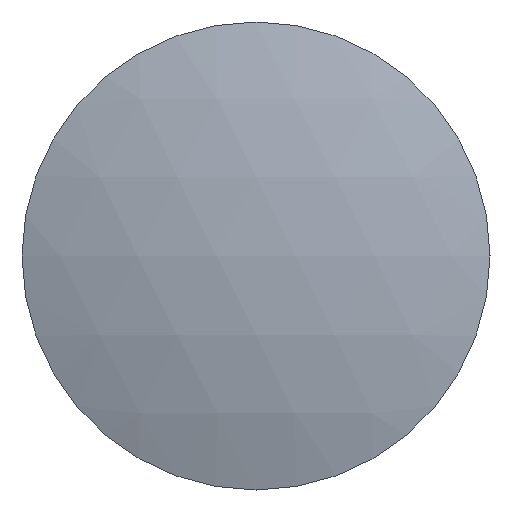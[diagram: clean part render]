
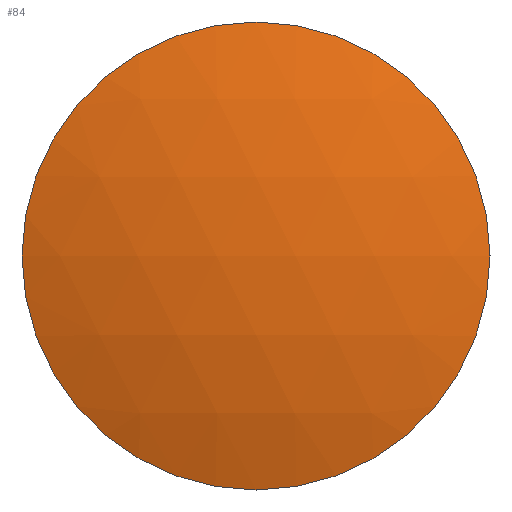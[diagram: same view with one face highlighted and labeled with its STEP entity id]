
A CAD part, front view. The second image highlights one B-rep face of the part: STEP entity #84.
In plain terms, the highlighted spherical face has radius 12.98 mm.
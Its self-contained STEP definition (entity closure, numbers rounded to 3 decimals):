
#68=CARTESIAN_POINT('',(0.0,10.88,0.0));
#69=DIRECTION('',(0.0,0.0,1.0));
#70=DIRECTION('',(1.0,0.0,0.0));
#71=AXIS2_PLACEMENT_3D('',#68,#69,#70);
#72=SPHERICAL_SURFACE('',#71,12.98);
#73=CARTESIAN_POINT('',(-4.,-1.468,0.0));
#74=VERTEX_POINT('',#73);
#75=CARTESIAN_POINT('',(0.0,-1.468,0.0));
#76=DIRECTION('',(0.0,1.0,0.0));
#77=DIRECTION('',(-1.0,0.0,0.0));
#78=AXIS2_PLACEMENT_3D('',#75,#76,#77);
#79=CIRCLE('',#78,4.);
#80=EDGE_CURVE('',#74,#74,#79,.T.);
#81=ORIENTED_EDGE('',*,*,#80,.F.);
#82=EDGE_LOOP('',(#81));
#83=FACE_OUTER_BOUND('',#82,.T.);
#84=ADVANCED_FACE('',(#83),#72,.T.);
